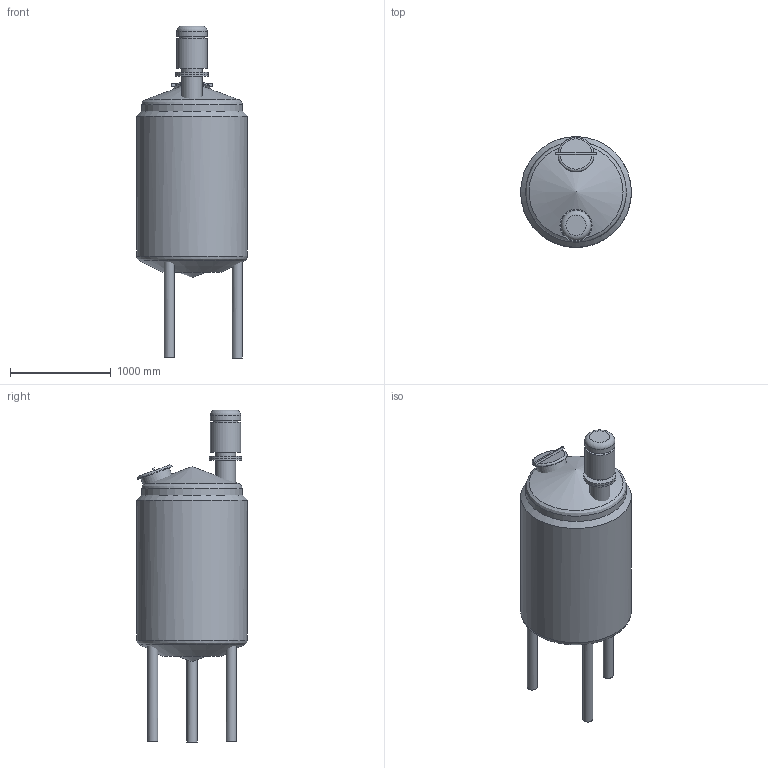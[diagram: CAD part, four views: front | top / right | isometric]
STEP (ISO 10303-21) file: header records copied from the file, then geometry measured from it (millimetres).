
FILE_DESCRIPTION(('FreeCAD Model'),'2;1');
FILE_NAME('/home/martin/Documents/web/boteromartin/archivos/depositos/tanke_1lt_ais.step','2022-08-19T20:42:08',('Author'),(''), 'Open CASCADE STEP processor 7.3','FreeCAD','Unknown');
FILE_SCHEMA(('AUTOMOTIVE_DESIGN { 1 0 10303 214 1 1 1 1 }'));
Length unit declared in the file: millimetre
Products named in the file (5): Vaso; Aislamiento; Patas; mh-300; timpsa-hd
Bounding box: 1100 x 1100 x 3297.04 mm (x, y, z)
Volume: 1669426719.5 mm3; surface area: 20349204.9 mm2
Topology: 7 solids, 7 shells, 68 faces, 121 edges, 71 vertices
Faces by surface type: plane 34, cylinder 18, cone 11, bspline 3, torus 2
Full cylindrical faces by diameter (mm): 40 x1, 100 x3, 200 x2, 240 x1, 300 x3, 320 x2, 360 x1, 1000 x2, 1100 x1
Entity records: 4475 total; most frequent: CARTESIAN_POINT 1484, DIRECTION 479, ORIENTED_EDGE 238, PCURVE 238, DEFINITIONAL_REPRESENTATION 238, LINE 227, VECTOR 227, EDGE_CURVE 119
